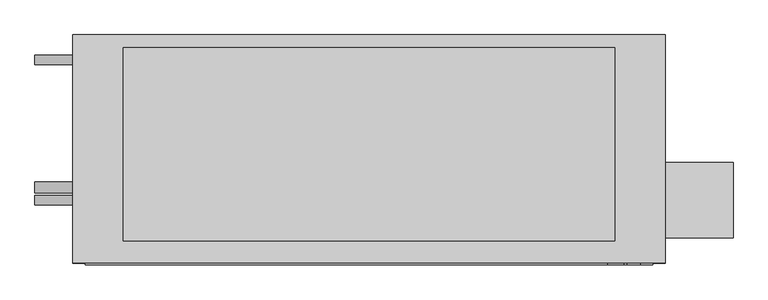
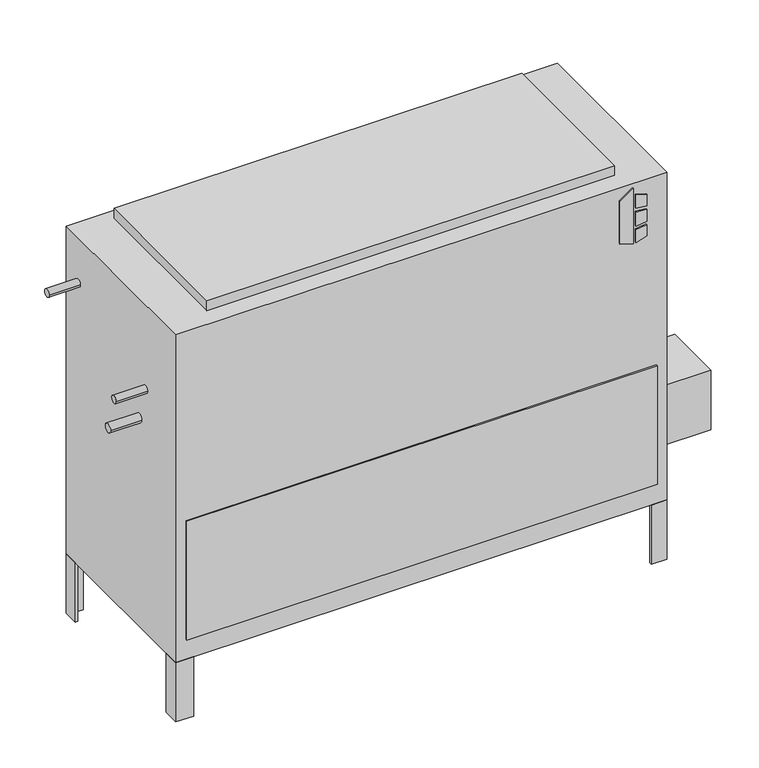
"""IFC4 building model written with IfcOpenShell, lengths in millimetres: proxy geometry, Concealed_High_Capacity_Vertical_Fan_Coil_Unit_-_VEY_-_IEC_-_2-Pipe_Cool-EHeat_LH_2022 : Size 16 - 277v/60Hz/1Ph - 6 Row 12.0kW."""

import ifcopenshell
import ifcopenshell.guid

model = None  # the IFC model being written
_history = None  # IfcOwnerHistory: only IFC2X3 demands one
_inside = {}  # id of a spatial element -> (the spatial element, [elements in it])
_under = {}  # id of a project, library or spatial element -> (it, [spatial elements below it])
_declared = {}  # id of a project -> (the project, [libraries it declares])
_typed = {}  # id of a type object -> (the type object, [elements of that type])
_made_of = {}  # id of a material, layer set ... -> (it, [elements and type objects made of it])


def new_model(schema):
    """Start an empty IFC model of exactly this schema.

    Asked for "IFC4X3", IfcOpenShell would pick the latest addendum, in which some entities
    have other attributes; the version numbers below select the first issue.
    IFC2X3 requires an IfcOwnerHistory on every rooted entity: one is made here for all.
    """
    global model, _history
    if schema == "IFC4X3":
        model = ifcopenshell.file(schema_version=(4, 3, 0, 0))
    else:
        model = ifcopenshell.file(schema=schema)
    _inside.clear()
    _under.clear()
    _declared.clear()
    _typed.clear()
    _made_of.clear()
    _history = None
    if model.schema == "IFC2X3":
        org = make("IfcOrganization", Name="unknown")
        user = make(
            "IfcPersonAndOrganization",
            ThePerson=make("IfcPerson", FamilyName="unknown"),
            TheOrganization=org,
        )
        app = make(
            "IfcApplication",
            ApplicationDeveloper=org,
            Version="unknown",
            ApplicationFullName="unknown",
            ApplicationIdentifier="unknown",
        )
        _history = make(
            "IfcOwnerHistory",
            OwningUser=user,
            OwningApplication=app,
            ChangeAction="ADDED",
            CreationDate=0,
        )
    return model


def make(cls, **values):
    """One entity of the class cls with the attributes given. An attribute that is None is left unset."""
    return model.create_entity(
        cls, **{name: value for name, value in values.items() if value is not None}
    )


def rooted(cls, **values):
    """An entity with a GlobalId (a new one), such as an element, a storey or a relation."""
    return make(cls, GlobalId=ifcopenshell.guid.new(), OwnerHistory=_history, **values)


def si_unit(unit_type, name, prefix=None):
    """IfcSIUnit, for example si_unit("LENGTHUNIT", "METRE", prefix="MILLI")."""
    return make("IfcSIUnit", UnitType=unit_type, Prefix=prefix, Name=name)


def assignment(units):
    """IfcUnitAssignment: the units of a project."""
    return None if units is None else make("IfcUnitAssignment", Units=units)


def point(xyz):
    """IfcCartesianPoint."""
    return None if xyz is None else make("IfcCartesianPoint", Coordinates=xyz)


def direction(xyz):
    """IfcDirection."""
    return None if xyz is None else make("IfcDirection", DirectionRatios=xyz)


def frame(location, z_axis=None, x_axis=None):
    """IfcAxis2Placement3D, a coordinate frame: its origin and axes. An axis left out is left unset."""
    return make(
        "IfcAxis2Placement3D",
        Location=point(location),
        Axis=direction(z_axis),
        RefDirection=direction(x_axis),
    )


def frame_2d(location, x_axis=None):
    """IfcAxis2Placement2D, a coordinate frame in the plane: its origin and x axis."""
    return make(
        "IfcAxis2Placement2D", Location=point(location), RefDirection=direction(x_axis)
    )


def origin():
    """The frame at (0, 0, 0) with its axes left unset."""
    return frame((0.0, 0.0, 0.0))


def origin_with_axes():
    """The frame at (0, 0, 0) with the z axis (0, 0, 1) and the x axis (1, 0, 0) written out."""
    return frame((0.0, 0.0, 0.0), z_axis=(0.0, 0.0, 1.0), x_axis=(1.0, 0.0, 0.0))


def place(relative_to, where):
    """IfcLocalPlacement: puts the frame where relative to a parent placement (None: the world)."""
    return make(
        "IfcLocalPlacement", PlacementRelTo=relative_to, RelativePlacement=where
    )


def context(
    kind, dimensions, precision=None, world=None, true_north=None, identifier=None
):
    """IfcGeometricRepresentationContext, for example the 3D "Model" context."""
    return make(
        "IfcGeometricRepresentationContext",
        ContextIdentifier=identifier,
        ContextType=kind,
        CoordinateSpaceDimension=dimensions,
        Precision=precision,
        WorldCoordinateSystem=world,
        TrueNorth=true_north,
    )


def project(units=None, contexts=None):
    """IfcProject with its units and contexts."""
    return rooted(
        "IfcProject",
        Name="project",
        RepresentationContexts=contexts,
        UnitsInContext=assignment(units),
    )


def spatial(cls, under=None, at=None, **own):
    """A site, building, storey or space (cls), placed at a placement, below another one or the project."""
    s = rooted(cls, ObjectPlacement=at, **own)
    if under is not None:
        _under.setdefault(under.id(), (under, []))[1].append(s)
    return s


def polyline(points):
    """IfcPolyline through the points."""
    return make("IfcPolyline", Points=[point(p) for p in points])


def circle_curve(where, radius):
    """IfcCircle in the frame where."""
    return make("IfcCircle", Position=where, Radius=radius)


def trimmed(basis, trim1, trim2, sense, master):
    """IfcTrimmedCurve: the piece of a basis curve between two trims."""
    return make(
        "IfcTrimmedCurve",
        BasisCurve=basis,
        Trim1=trim1,
        Trim2=trim2,
        SenseAgreement=sense,
        MasterRepresentation=master,
    )


def segment(curve, same_sense, transition):
    """IfcCompositeCurveSegment."""
    return make(
        "IfcCompositeCurveSegment",
        Transition=transition,
        SameSense=same_sense,
        ParentCurve=curve,
    )


def composite_curve(segments, self_intersect=None):
    """IfcCompositeCurve: segments joined end to end."""
    return make("IfcCompositeCurve", Segments=segments, SelfIntersect=self_intersect)


def outline(outer, holes=None, kind="AREA"):
    """IfcArbitraryClosedProfileDef: a profile drawn as a closed curve; with holes, ...WithVoids."""
    if holes is None:
        return make("IfcArbitraryClosedProfileDef", ProfileType=kind, OuterCurve=outer)
    return make(
        "IfcArbitraryProfileDefWithVoids",
        ProfileType=kind,
        OuterCurve=outer,
        InnerCurves=holes,
    )


def extrude(swept, where, along, depth):
    """IfcExtrudedAreaSolid: the profile swept, set in the frame where, extruded along a direction by depth."""
    return make(
        "IfcExtrudedAreaSolid",
        SweptArea=swept,
        Position=where,
        ExtrudedDirection=direction(along),
        Depth=depth,
    )


def shape(context_of_items, identifier, shape_type, items):
    """IfcShapeRepresentation: the items that make up one representation, for example the "Body"."""
    return make(
        "IfcShapeRepresentation",
        ContextOfItems=context_of_items,
        RepresentationIdentifier=identifier,
        RepresentationType=shape_type,
        Items=items,
    )


def source(mapping_origin, context_of_items, identifier, shape_type, items):
    """IfcRepresentationMap: a shape defined once, which mapped items show again and again."""
    return make(
        "IfcRepresentationMap",
        MappingOrigin=mapping_origin,
        MappedRepresentation=shape(context_of_items, identifier, shape_type, items),
    )


def transform(
    local_origin,
    x_axis=None,
    y_axis=None,
    z_axis=None,
    scale=None,
    scale2=None,
    scale3=None,
    uniform=True,
):
    """IfcCartesianTransformationOperator3D, or its non-uniform kind. x_axis, y_axis, z_axis: its Axis1, 2, 3."""
    if uniform:
        return make(
            "IfcCartesianTransformationOperator3D",
            Axis1=direction(x_axis),
            Axis2=direction(y_axis),
            LocalOrigin=point(local_origin),
            Scale=scale,
            Axis3=direction(z_axis),
        )
    return make(
        "IfcCartesianTransformationOperator3DnonUniform",
        Axis1=direction(x_axis),
        Axis2=direction(y_axis),
        LocalOrigin=point(local_origin),
        Scale=scale,
        Axis3=direction(z_axis),
        Scale2=scale2,
        Scale3=scale3,
    )


def mapped(mapping_source, mapping_target):
    """IfcMappedItem: shows the shape of a source again, moved by a transform."""
    return make(
        "IfcMappedItem", MappingSource=mapping_source, MappingTarget=mapping_target
    )


def made_of(thing, what):
    """Note that an element or type object is made of a material, layer set ...; save() writes the relation."""
    if what is not None:
        _made_of.setdefault(what.id(), (what, []))[1].append(thing)
    return thing


def element(
    cls,
    number,
    at=None,
    inside=None,
    cuts=None,
    type_object=None,
    material=None,
    context=None,
    identifier="Body",
    shape_type=None,
    held_by="IfcProductDefinitionShape",
    body=None,
    shapes=None,
    **own,
):
    """One element of the class cls, such as IfcWall. Its Tag is "e" and its number.

    at: its placement. inside: the storey or other place that contains it. cuts: it is an
    opening in that element (IfcRelVoidsElement). A single representation is given by context,
    identifier, shape_type and body (its items); several are given by shapes. held_by: the class
    of the entity that holds the representations. save() writes the other relations.
    """
    e = rooted(cls, Tag="e%d" % number, ObjectPlacement=at, **own)
    if body is not None:
        shapes = [shape(context, identifier, shape_type, body)]
    if shapes is not None:
        e.Representation = make(held_by, Representations=shapes)
    if inside is not None:
        _inside.setdefault(inside.id(), (inside, []))[1].append(e)
    if cuts is not None:
        rooted(
            "IfcRelVoidsElement", RelatingBuildingElement=cuts, RelatedOpeningElement=e
        )
    if type_object is not None:
        _typed.setdefault(type_object.id(), (type_object, []))[1].append(e)
    return made_of(e, material)


def aggregate(whole, parts):
    """IfcRelAggregates: a whole, such as a stair, and the parts it consists of."""
    return rooted("IfcRelAggregates", RelatingObject=whole, RelatedObjects=parts)


def save(model, path):
    """Write the relations noted so far, then the file.

    IfcRelAggregates (storeys below a building ...), IfcRelContainedInSpatialStructure (elements
    in a storey), IfcRelDefinesByType, IfcRelAssociatesMaterial and IfcRelDeclares: one each for
    every whole, place, type object, material and project.
    """
    for whole, parts in _under.values():
        aggregate(whole, parts)
    for where, things in _inside.values():
        rooted(
            "IfcRelContainedInSpatialStructure",
            RelatedElements=things,
            RelatingStructure=where,
        )
    for kind, things in _typed.values():
        rooted("IfcRelDefinesByType", RelatedObjects=things, RelatingType=kind)
    for what, things in _made_of.values():
        rooted("IfcRelAssociatesMaterial", RelatedObjects=things, RelatingMaterial=what)
    for by, libraries in _declared.values():
        rooted("IfcRelDeclares", RelatingContext=by, RelatedDefinitions=libraries)
    model.write(path)


def mechanical_equipment_4bd6c970(model_context):
    return source(origin(), model_context, "Body", "SweptSolid", [
        extrude(outline(polyline([(698.9230703, 633.4868862), (688.975, 665.6602728), (831.1459244, 665.6602728), (808.1239183, 633.4868862), (698.9230703, 633.4868862)])), frame((0.0, -471.4875, 0.0), z_axis=(0.0, 1.0, 0.0), x_axis=(0.0, 0.0, 1.0)), (0.0, 0.0, 1.0), 3.175),
        extrude(outline(polyline([(777.9223557, 672.4186058), (774.7199632, 698.5), (803.9488042, 698.5), (812.0132193, 672.4186058), (777.9223557, 672.4186058)])), frame((0.0, -471.4875, 0.0), z_axis=(0.0, 1.0, 0.0), x_axis=(0.0, 0.0, 1.0)), (0.0, 0.0, 1.0), 3.175),
        extrude(outline(polyline([(726.0588288, 698.5), (722.3933279, 672.4186058), (688.975, 672.4186058), (697.6092372, 698.5), (726.0588288, 698.5)])), frame((0.0, -471.4875, 0.0), z_axis=(0.0, 1.0, 0.0), x_axis=(0.0, 0.0, 1.0)), (0.0, 0.0, 1.0), 3.175),
        extrude(outline(polyline([(765.3739903, 698.5), (767.6558166, 672.4186058), (731.7182681, 672.4186058), (734.4595331, 698.5), (765.3739903, 698.5)])), frame((0.0, -471.4875, 0.0), z_axis=(0.0, 1.0, 0.0), x_axis=(0.0, 0.0, 1.0)), (0.0, 0.0, 1.0), 3.175),
        extrude(outline(polyline([(749.3, -417.5125), (749.3, -265.1125), (885.825, -265.1125), (885.825, -417.5125), (749.3, -417.5125)])), frame((0.0, 0.0, 101.6), z_axis=(0.0, 0.0, 1.0), x_axis=(1.0, 0.0, 0.0)), (0.0, 0.0, 1.0), 152.4),
        extrude(outline(polyline([(749.3, -46.0375), (742.95, -46.0375), (742.95, -14.2875), (711.2, -14.2875), (711.2, -7.9375), (749.3, -7.9375), (749.3, -46.0375)])), frame((0.0, 0.0, -152.4), z_axis=(0.0, 0.0, 1.0), x_axis=(1.0, 0.0, 0.0)), (0.0, 0.0, 1.0), 152.4),
        extrude(outline(polyline([(-406.4, -7.9375), (-406.4, -14.2875), (-438.15, -14.2875), (-438.15, -46.0375), (-444.5, -46.0375), (-444.5, -7.9375), (-406.4, -7.9375)])), frame((0.0, 0.0, -152.4), z_axis=(0.0, 0.0, 1.0), x_axis=(1.0, 0.0, 0.0)), (0.0, 0.0, 1.0), 152.4),
        extrude(outline(polyline([(711.2, -468.3125), (711.2, -461.9625), (742.95, -461.9625), (742.95, -430.2125), (749.3, -430.2125), (749.3, -468.3125), (711.2, -468.3125)])), frame((0.0, 0.0, -152.4), z_axis=(0.0, 0.0, 1.0), x_axis=(1.0, 0.0, 0.0)), (0.0, 0.0, 1.0), 152.4),
        extrude(outline(polyline([(-444.5, -428.1199163), (-438.15, -428.1199163), (-438.15, -461.9625), (-401.0318533, -461.9625), (-401.0318533, -468.3125), (-444.5, -468.3125), (-444.5, -428.1199163)])), frame((0.0, 0.0, -152.4), z_axis=(0.0, 0.0, 1.0), x_axis=(1.0, 0.0, 0.0)), (0.0, 0.0, 1.0), 152.4),
        extrude(outline(polyline([(647.7, -33.3375), (647.7, -423.8625), (-342.9, -423.8625), (-342.9, -33.3375), (647.7, -33.3375)])), frame((0.0, 0.0, 841.375), z_axis=(0.0, 0.0, 1.0), x_axis=(1.0, 0.0, 0.0)), (0.0, 0.0, 1.0), 25.4),
        extrude(outline(polyline([(723.9, -471.4875), (-419.1, -471.4875), (-419.1, -468.3125), (723.9, -468.3125), (723.9, -471.4875)])), frame((0.0, 0.0, 50.8), z_axis=(0.0, 0.0, 1.0), x_axis=(1.0, 0.0, 0.0)), (0.0, 0.0, 1.0), 304.8),
        extrude(outline(composite_curve([segment(trimmed(circle_curve(frame_2d((-58.7375, 727.075)), 9.525), [point((-68.2625, 727.075))], [point((-49.2125, 727.075))], False, "CARTESIAN"), True, "CONTINUOUS"), segment(trimmed(circle_curve(frame_2d((-58.7375, 727.075)), 9.525), [point((-49.2125, 727.075))], [point((-68.2625, 727.075))], False, "CARTESIAN"), True, "CONTINUOUS")], self_intersect=False)), frame((-520.7, 0.0, 0.0), z_axis=(1.0, 0.0, 0.0), x_axis=(0.0, 1.0, 0.0)), (0.0, 0.0, 1.0), 76.2),
        extrude(outline(composite_curve([segment(trimmed(circle_curve(frame_2d((-341.3125, 625.475)), 9.525), [point((-350.8375, 625.475))], [point((-331.7875, 625.475))], False, "CARTESIAN"), True, "CONTINUOUS"), segment(trimmed(circle_curve(frame_2d((-341.3125, 625.475)), 9.525), [point((-331.7875, 625.475))], [point((-350.8375, 625.475))], False, "CARTESIAN"), True, "CONTINUOUS")], self_intersect=False)), frame((-520.7, 0.0, 0.0), z_axis=(1.0, 0.0, 0.0), x_axis=(0.0, 1.0, 0.0)), (0.0, 0.0, 1.0), 76.2),
        extrude(outline(composite_curve([segment(trimmed(circle_curve(frame_2d((-315.9125, 536.575)), 11.1125), [point((-327.025, 536.575))], [point((-304.8, 536.575))], False, "CARTESIAN"), True, "CONTINUOUS"), segment(trimmed(circle_curve(frame_2d((-315.9125, 536.575)), 11.1125), [point((-304.8, 536.575))], [point((-327.025, 536.575))], False, "CARTESIAN"), True, "CONTINUOUS")], self_intersect=False)), frame((-520.7, 0.0, 0.0), z_axis=(1.0, 0.0, 0.0), x_axis=(0.0, 1.0, 0.0)), (0.0, 0.0, 1.0), 76.2),
        extrude(outline(polyline([(749.3, -7.9375), (749.3, -468.3125), (-444.5, -468.3125), (-444.5, -7.9375), (749.3, -7.9375)])), origin_with_axes(), (0.0, 0.0, 1.0), 841.375),
    ])


if __name__ == "__main__":
    model = new_model("IFC4")
    model_context = context("Model", 3, world=origin())
    ifc_project = project(units=[si_unit("LENGTHUNIT", "METRE", prefix="MILLI")], contexts=[model_context])
    site = spatial("IfcSite", under=ifc_project)
    building = spatial("IfcBuilding", under=site)
    placement = place(None, origin())
    mechanical_equipment_shape = mechanical_equipment_4bd6c970(model_context)
    element("IfcBuildingElementProxy", 1, Name="Concealed_High_Capacity_Vertical_Fan_Coil_Unit_-_VEY_-_IEC_-_2-Pipe_Cool-EHeat_LH_2022 : Size 16 - 277v/60Hz/1Ph - 6 Row 12.0kW", ObjectType="Concealed_High_Capacity_Vertical_Fan_Coil_Unit_-_VEY_-_IEC_-_2-Pipe_Cool-EHeat_LH_2022 : Size 16 - 277v/60Hz/1Ph - 6 Row 12.0kW", at=placement, inside=building, context=model_context, shape_type="MappedRepresentation", body=[
        mapped(mechanical_equipment_shape, transform((0.0, 0.0, 0.0), x_axis=(1.0, 0.0, 0.0), y_axis=(0.0, 1.0, 0.0), z_axis=(0.0, 0.0, 1.0))),
    ])
    save(model, "model.ifc")
